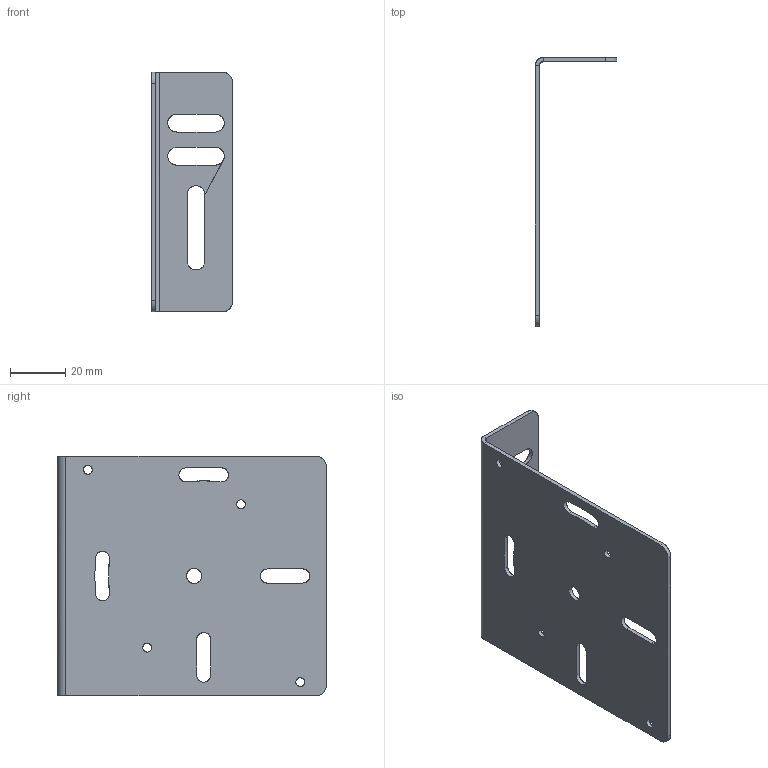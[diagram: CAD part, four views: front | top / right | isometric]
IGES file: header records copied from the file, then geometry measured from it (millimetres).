
Global section: file name: O:\Archiv\ARCHIV\153\3D-Model Kunde (DXF, IGS, SAT)\15300561.igs; native system: AutoCAD-17.2s (LMS Tech) (Microsoft Windows NT Version 6.1 (x64)); preprocessor: Autodesk IGES Translator Mechanical Desktop 2009 (Feb 21 2008) from Autodesk, Inc.; date: 20140717.115044; units: millimetre
Bounding box: 29.5 x 97.5 x 87 mm (x, y, z)
Surface area: 21180.2 mm2 (no closed solid volume)
Topology: 0 solids, 0 shells, 56 faces, 692 edges, 692 vertices
Faces by surface type: bspline 56
